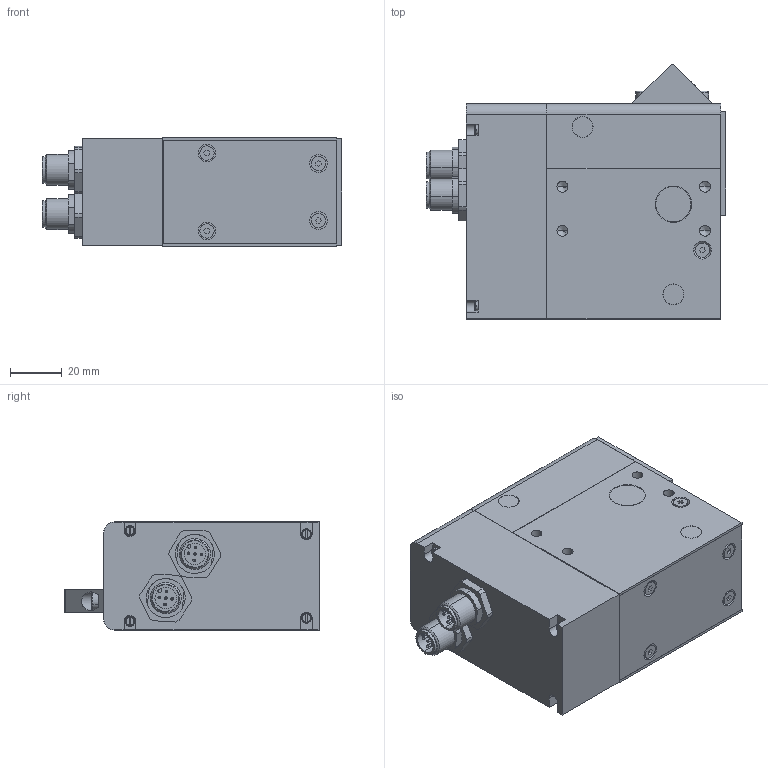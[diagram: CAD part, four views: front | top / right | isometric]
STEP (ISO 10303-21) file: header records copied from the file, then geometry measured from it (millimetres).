
FILE_DESCRIPTION (( 'STEP AP203' ), '1' );
FILE_NAME ('del0-120-5-R_Vereizeler~1.STEP', '2014-12-16T14:02:00', ( 'test' ), ( '' ), 'SwSTEP 2.0', 'SolidWorks 2012', '' );
FILE_SCHEMA (( 'CONFIG_CONTROL_DESIGN' ));
Length unit declared in the file: millimetre
Products named in the file (8): del0-120-5-R_Vereizeler~1; 18550 M3x8; 02547001 M2x30; 06290022_06290015_EINBAUSTECKER_5_POLIG~1; 02520005 M3x16; del0-120-5-R-nicht_komplett_vereinzeler~1; 02535003 M4x10; MUTTER_LUMBERG_STECKER~1
Assembly tree (19 placements, depth 2):
  del0-120-5-R_Vereizeler~1
    del0-120-5-R-nicht_komplett_vereinzeler~1
    MUTTER_LUMBERG_STECKER~1  x2
    02547001 M2x30  x4
    02535003 M4x10  x2
    02520005 M3x16  x6
    18550 M3x8  x2
    06290022_06290015_EINBAUSTECKER_5_POLIG~1  x2
Bounding box: 115.5 x 98 x 42 mm (x, y, z)
Volume: 342908.1 mm3; surface area: 53961.4 mm2
Topology: 23 solids, 32 shells, 741 faces, 1736 edges, 1064 vertices
Faces by surface type: plane 285, cylinder 284, cone 112, sphere 40, torus 20
Entity records: 13377 total; most frequent: DIRECTION 2286, CARTESIAN_POINT 2160, ORIENTED_EDGE 1916, EDGE_CURVE 958, AXIS2_PLACEMENT_3D 884, VERTEX_POINT 613, LINE 518, VECTOR 518
